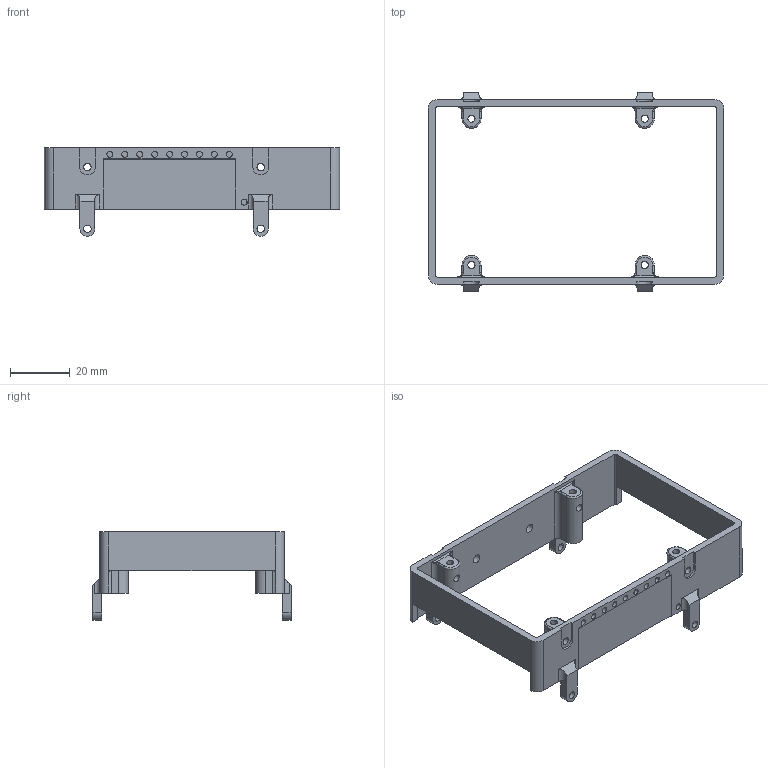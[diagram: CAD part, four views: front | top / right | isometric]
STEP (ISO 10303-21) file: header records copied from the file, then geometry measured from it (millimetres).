
FILE_DESCRIPTION(/* description */ (''),/* implementation_level */ '2;1');
FILE_NAME(/* name */ 'C:/Users/Prashant/Desktop/RTD enclosure/3D Printing/STEP files/Top ring.step',/* time_stamp */ '2021-07-26T15:03:22+06:00',/* author */ (''),/* organization */ (''),/* preprocessor_version */ 'ST-DEVELOPER v18.1',/* originating_system */ 'Autodesk Translation Framework v10.9.0.1377',/* authorisation */ '');
FILE_SCHEMA (('AUTOMOTIVE_DESIGN { 1 0 10303 214 3 1 1 }'));
Length unit declared in the file: millimetre
Products named in the file (1): Top ring
Bounding box: 98.8 x 66.4 x 29.6 mm (x, y, z)
Volume: 16118.2 mm3; surface area: 15225.4 mm2
Topology: 1 solids, 1 shells, 165 faces, 467 edges, 294 vertices
Faces by surface type: cylinder 80, plane 65, torus 12, bspline 8
Full cylindrical faces by diameter (mm): 2 x10, 2.4 x8, 2.5 x8, 3 x2
Entity records: 6346 total; most frequent: CARTESIAN_POINT 1913, ORIENTED_EDGE 918, DIRECTION 903, EDGE_CURVE 459, AXIS2_PLACEMENT_3D 319, VERTEX_POINT 294, LINE 265, VECTOR 265
